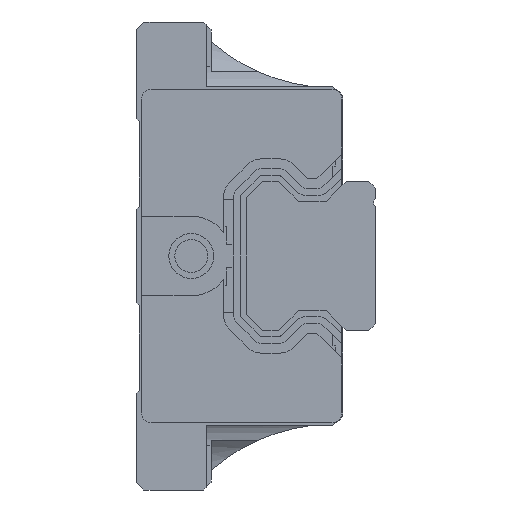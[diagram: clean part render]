
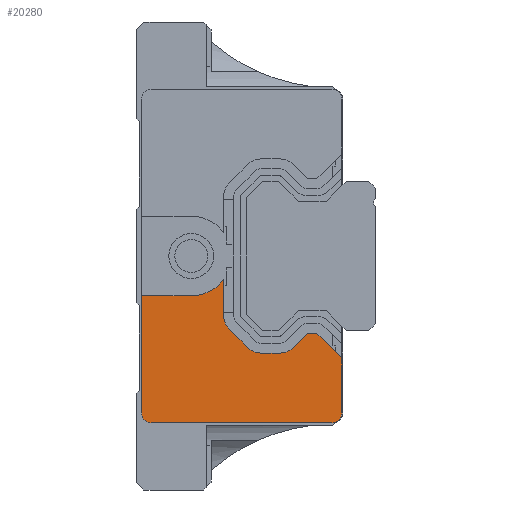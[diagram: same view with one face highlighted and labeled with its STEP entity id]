
A CAD part, left-side view. The second image highlights one B-rep face of the part: STEP entity #20280.
In plain terms, the highlighted planar face has unit normal (-1, 0, 0).
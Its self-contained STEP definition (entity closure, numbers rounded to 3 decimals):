
#227 = EDGE_CURVE ( 'NONE', #13306, #11143, #15187, .T. ) ;
#264 = CARTESIAN_POINT ( 'NONE',  ( -8.5, 5.882, -7.75 ) ) ;
#433 = CARTESIAN_POINT ( 'NONE',  ( -8.5, 12.868, -9.164 ) ) ;
#815 = CARTESIAN_POINT ( 'NONE',  ( -8.5, 4.4, -16.75 ) ) ;
#846 = DIRECTION ( 'NONE',  ( 0., 0., -1. ) ) ;
#1109 = ORIENTED_EDGE ( 'NONE', *, *, #9954, .F. ) ;
#1248 = ORIENTED_EDGE ( 'NONE', *, *, #15944, .F. ) ;
#1357 = EDGE_CURVE ( 'NONE', #3059, #3847, #3960, .T. ) ;
#1358 = DIRECTION ( 'NONE',  ( 0., 0., -1. ) ) ;
#1499 = EDGE_CURVE ( 'NONE', #8939, #20492, #21915, .T. ) ;
#1523 = ORIENTED_EDGE ( 'NONE', *, *, #8915, .F. ) ;
#1685 = CARTESIAN_POINT ( 'NONE',  ( -8.5, 18.5, -4. ) ) ;
#1777 = CIRCLE ( 'NONE', #21347, 4. ) ;
#2201 = DIRECTION ( 'NONE',  ( 0., 0., -1. ) ) ;
#2306 = CARTESIAN_POINT ( 'NONE',  ( -8.5, 5.882, -7.75 ) ) ;
#2447 = LINE ( 'NONE', #19118, #20370 ) ;
#2760 = CIRCLE ( 'NONE', #5427, 2. ) ;
#3059 = VERTEX_POINT ( 'NONE', #433 ) ;
#3083 = VERTEX_POINT ( 'NONE', #3086 ) ;
#3086 = CARTESIAN_POINT ( 'NONE',  ( -8.5, 3.4, -10.232 ) ) ;
#3275 = VERTEX_POINT ( 'NONE', #14913 ) ;
#3310 = DIRECTION ( 'NONE',  ( 0., 0., -1. ) ) ;
#3386 = VERTEX_POINT ( 'NONE', #1685 ) ;
#3524 = VECTOR ( 'NONE', #5556, 1000. ) ;
#3633 = DIRECTION ( 'NONE',  ( 0., -0.707, -0.707 ) ) ;
#3732 = CARTESIAN_POINT ( 'NONE',  ( -8.5, 3.4, -15.75 ) ) ;
#3736 = DIRECTION ( 'NONE',  ( 0., -1., 0. ) ) ;
#3847 = VERTEX_POINT ( 'NONE', #19520 ) ;
#3960 = CIRCLE ( 'NONE', #19690, 2. ) ;
#4102 = CARTESIAN_POINT ( 'NONE',  ( -8.5, 3.4, -10.232 ) ) ;
#4212 = DIRECTION ( 'NONE',  ( -1., 0., 0. ) ) ;
#4596 = AXIS2_PLACEMENT_3D ( 'NONE', #13785, #21152, #11886 ) ;
#4611 = CARTESIAN_POINT ( 'NONE',  ( -8.5, 3.4, -8.818 ) ) ;
#4839 = ORIENTED_EDGE ( 'NONE', *, *, #19482, .F. ) ;
#4924 = VERTEX_POINT ( 'NONE', #23234 ) ;
#4931 = CARTESIAN_POINT ( 'NONE',  ( -8.5, 8.232, -9.164 ) ) ;
#5078 = ORIENTED_EDGE ( 'NONE', *, *, #17803, .F. ) ;
#5082 = CARTESIAN_POINT ( 'NONE',  ( -8.5, 6.818, -7.75 ) ) ;
#5211 = DIRECTION ( 'NONE',  ( 0., 0., -1. ) ) ;
#5427 = AXIS2_PLACEMENT_3D ( 'NONE', #9039, #18660, #2201 ) ;
#5556 = DIRECTION ( 'NONE',  ( 0., -1., 0. ) ) ;
#5687 = ORIENTED_EDGE ( 'NONE', *, *, #9373, .F. ) ;
#5776 = CARTESIAN_POINT ( 'NONE',  ( -8.5, 9.646, -9.75 ) ) ;
#6025 = CARTESIAN_POINT ( 'NONE',  ( -8.5, 6.818, -7.75 ) ) ;
#6088 = DIRECTION ( 'NONE',  ( 0., 1., 0. ) ) ;
#6203 = VECTOR ( 'NONE', #6088, 1000. ) ;
#6267 = DIRECTION ( 'NONE',  ( 1., 0., 0. ) ) ;
#6616 = LINE ( 'NONE', #8174, #23145 ) ;
#6715 = ORIENTED_EDGE ( 'NONE', *, *, #7723, .F. ) ;
#6729 = EDGE_CURVE ( 'NONE', #22878, #13306, #22256, .T. ) ;
#7015 = DIRECTION ( 'NONE',  ( 1., 0., 0. ) ) ;
#7723 = EDGE_CURVE ( 'NONE', #20492, #3083, #20799, .T. ) ;
#7727 = CIRCLE ( 'NONE', #18095, 1. ) ;
#8174 = CARTESIAN_POINT ( 'NONE',  ( -8.5, 15.25, -5.954 ) ) ;
#8494 = EDGE_CURVE ( 'NONE', #11143, #19841, #7727, .T. ) ;
#8512 = VECTOR ( 'NONE', #1358, 1000. ) ;
#8716 = ORIENTED_EDGE ( 'NONE', *, *, #8494, .F. ) ;
#8915 = EDGE_CURVE ( 'NONE', #15036, #3386, #9034, .T. ) ;
#8939 = VERTEX_POINT ( 'NONE', #5082 ) ;
#8944 = CARTESIAN_POINT ( 'NONE',  ( -8.5, 22.5, -15.75 ) ) ;
#9034 = LINE ( 'NONE', #21793, #3524 ) ;
#9039 = CARTESIAN_POINT ( 'NONE',  ( -8.5, 13.25, -5.954 ) ) ;
#9373 = EDGE_CURVE ( 'NONE', #3083, #22878, #21069, .T. ) ;
#9618 = CARTESIAN_POINT ( 'NONE',  ( -8.5, 14.664, -7.368 ) ) ;
#9748 = DIRECTION ( 'NONE',  ( 0., 0., 1. ) ) ;
#9849 = AXIS2_PLACEMENT_3D ( 'NONE', #15367, #6267, #14626 ) ;
#9954 = EDGE_CURVE ( 'NONE', #3847, #3275, #22142, .T. ) ;
#10106 = DIRECTION ( 'NONE',  ( 0., 0., -1. ) ) ;
#10129 = DIRECTION ( 'NONE',  ( 0., 0., -1. ) ) ;
#10172 = EDGE_LOOP ( 'NONE', ( #8716, #13264, #22315, #5687, #6715, #22076, #4839, #1248, #1109, #12663, #17988, #13125, #5078, #14085, #1523, #12002 ) ) ;
#10330 = PLANE ( 'NONE',  #9849 ) ;
#10739 = VERTEX_POINT ( 'NONE', #4931 ) ;
#10896 = VECTOR ( 'NONE', #3736, 1000. ) ;
#11143 = VERTEX_POINT ( 'NONE', #13860 ) ;
#11886 = DIRECTION ( 'NONE',  ( 0., 0., -1. ) ) ;
#12002 = ORIENTED_EDGE ( 'NONE', *, *, #23814, .F. ) ;
#12611 = EDGE_CURVE ( 'NONE', #3386, #22288, #1777, .T. ) ;
#12663 = ORIENTED_EDGE ( 'NONE', *, *, #1357, .F. ) ;
#12747 = LINE ( 'NONE', #20093, #21991 ) ;
#12969 = DIRECTION ( 'NONE',  ( 0., -1., 0. ) ) ;
#13125 = ORIENTED_EDGE ( 'NONE', *, *, #16037, .F. ) ;
#13264 = ORIENTED_EDGE ( 'NONE', *, *, #227, .F. ) ;
#13306 = VERTEX_POINT ( 'NONE', #14520 ) ;
#13326 = DIRECTION ( 'NONE',  ( 0., -0.707, 0.707 ) ) ;
#13785 = CARTESIAN_POINT ( 'NONE',  ( -8.5, 4.4, -15.75 ) ) ;
#13860 = CARTESIAN_POINT ( 'NONE',  ( -8.5, 22.5, -16.75 ) ) ;
#14085 = ORIENTED_EDGE ( 'NONE', *, *, #12611, .F. ) ;
#14520 = CARTESIAN_POINT ( 'NONE',  ( -8.5, 4.4, -16.75 ) ) ;
#14586 = VECTOR ( 'NONE', #22380, 1000. ) ;
#14626 = DIRECTION ( 'NONE',  ( 0., 0., -1. ) ) ;
#14913 = CARTESIAN_POINT ( 'NONE',  ( -8.5, 9.646, -9.75 ) ) ;
#15036 = VERTEX_POINT ( 'NONE', #20953 ) ;
#15187 = LINE ( 'NONE', #815, #6203 ) ;
#15226 = CARTESIAN_POINT ( 'NONE',  ( -8.5, 18.5, 0. ) ) ;
#15367 = CARTESIAN_POINT ( 'NONE',  ( -8.5, 4.4, 15.75 ) ) ;
#15389 = DIRECTION ( 'NONE',  ( -1., 0., 0. ) ) ;
#15543 = VECTOR ( 'NONE', #13326, 1000. ) ;
#15944 = EDGE_CURVE ( 'NONE', #3275, #10739, #17323, .T. ) ;
#16037 = EDGE_CURVE ( 'NONE', #4924, #20449, #2760, .T. ) ;
#16529 = CARTESIAN_POINT ( 'NONE',  ( -8.5, 15.25, -2.332 ) ) ;
#16976 = LINE ( 'NONE', #6025, #15543 ) ;
#17323 = CIRCLE ( 'NONE', #19219, 2. ) ;
#17667 = EDGE_CURVE ( 'NONE', #20449, #3059, #12747, .T. ) ;
#17803 = EDGE_CURVE ( 'NONE', #22288, #4924, #6616, .T. ) ;
#17988 = ORIENTED_EDGE ( 'NONE', *, *, #17667, .F. ) ;
#18095 = AXIS2_PLACEMENT_3D ( 'NONE', #8944, #7015, #3310 ) ;
#18660 = DIRECTION ( 'NONE',  ( -1., 0., 0. ) ) ;
#18915 = VECTOR ( 'NONE', #12969, 1000. ) ;
#19118 = CARTESIAN_POINT ( 'NONE',  ( -8.5, 23.5, -15.75 ) ) ;
#19219 = AXIS2_PLACEMENT_3D ( 'NONE', #21315, #23622, #5211 ) ;
#19239 = FACE_OUTER_BOUND ( 'NONE', #10172, .T. ) ;
#19482 = EDGE_CURVE ( 'NONE', #10739, #8939, #16976, .T. ) ;
#19520 = CARTESIAN_POINT ( 'NONE',  ( -8.5, 11.454, -9.75 ) ) ;
#19690 = AXIS2_PLACEMENT_3D ( 'NONE', #20590, #15389, #10129 ) ;
#19841 = VERTEX_POINT ( 'NONE', #21105 ) ;
#20093 = CARTESIAN_POINT ( 'NONE',  ( -8.5, 12.868, -9.164 ) ) ;
#20280 = ADVANCED_FACE ( 'NONE', ( #19239 ), #10330, .F. ) ;
#20370 = VECTOR ( 'NONE', #9748, 1000. ) ;
#20449 = VERTEX_POINT ( 'NONE', #9618 ) ;
#20492 = VERTEX_POINT ( 'NONE', #2306 ) ;
#20590 = CARTESIAN_POINT ( 'NONE',  ( -8.5, 11.454, -7.75 ) ) ;
#20799 = LINE ( 'NONE', #4102, #14586 ) ;
#20953 = CARTESIAN_POINT ( 'NONE',  ( -8.5, 23.5, -4. ) ) ;
#21069 = LINE ( 'NONE', #4611, #8512 ) ;
#21105 = CARTESIAN_POINT ( 'NONE',  ( -8.5, 23.5, -15.75 ) ) ;
#21152 = DIRECTION ( 'NONE',  ( 1., 0., 0. ) ) ;
#21315 = CARTESIAN_POINT ( 'NONE',  ( -8.5, 9.646, -7.75 ) ) ;
#21347 = AXIS2_PLACEMENT_3D ( 'NONE', #15226, #4212, #846 ) ;
#21793 = CARTESIAN_POINT ( 'NONE',  ( -8.5, 18.5, -4. ) ) ;
#21915 = LINE ( 'NONE', #264, #10896 ) ;
#21991 = VECTOR ( 'NONE', #3633, 1000. ) ;
#22076 = ORIENTED_EDGE ( 'NONE', *, *, #1499, .F. ) ;
#22142 = LINE ( 'NONE', #5776, #18915 ) ;
#22256 = CIRCLE ( 'NONE', #4596, 1. ) ;
#22288 = VERTEX_POINT ( 'NONE', #16529 ) ;
#22315 = ORIENTED_EDGE ( 'NONE', *, *, #6729, .F. ) ;
#22380 = DIRECTION ( 'NONE',  ( 0., -0.707, -0.707 ) ) ;
#22878 = VERTEX_POINT ( 'NONE', #3732 ) ;
#23145 = VECTOR ( 'NONE', #10106, 1000. ) ;
#23234 = CARTESIAN_POINT ( 'NONE',  ( -8.5, 15.25, -5.954 ) ) ;
#23622 = DIRECTION ( 'NONE',  ( -1., 0., 0. ) ) ;
#23814 = EDGE_CURVE ( 'NONE', #19841, #15036, #2447, .T. ) ;
